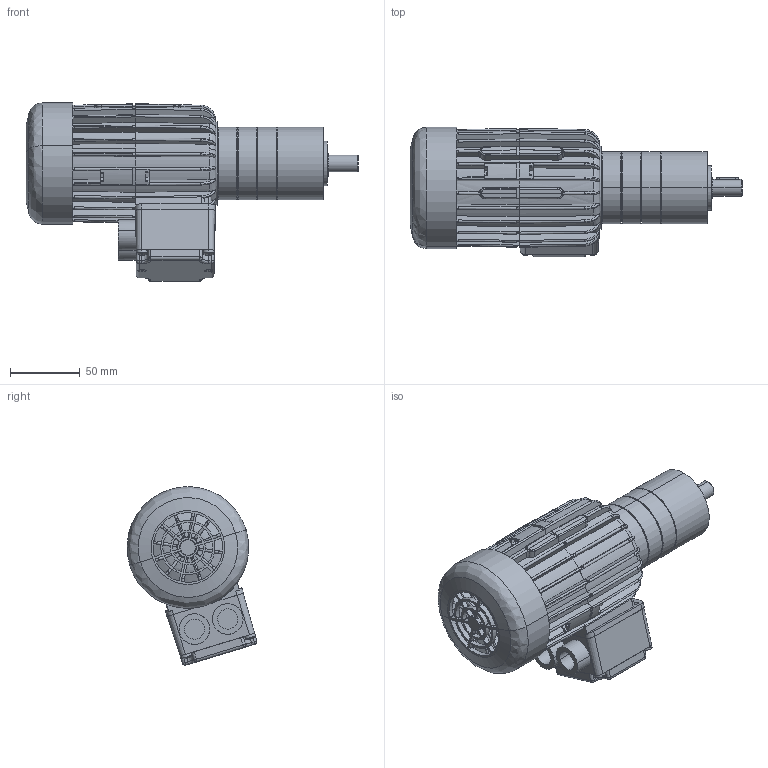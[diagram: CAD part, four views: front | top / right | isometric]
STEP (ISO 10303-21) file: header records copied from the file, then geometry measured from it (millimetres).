
FILE_DESCRIPTION (( 'STEP AP214' ), '1' );
FILE_NAME ('DG7150_+_PM52 3etages.STEP', '2014-12-08T15:08:21', ( '' ), ( '' ), 'SwSTEP 2.0', 'SolidWorks 2013', '' );
FILE_SCHEMA (( 'AUTOMOTIVE_DESIGN' ));
Length unit declared in the file: millimetre
Products named in the file (17): GK2152_POS3_6_ANLAUFSCHEIBE_1ST; SCHRAUBE_1241978_1; 8006230_ZAHNKRANZ_Z46; 8006405_DICHTRING; 4X4X16_D6885A; D471_12X1_5; 8102168_ABTRIEB_LK1_KPL; GK2152_POS31_2_LAGERBOLZEN; 8101171_ABTRIEB_ROHTEIL_AF0; DIN998_PS_12X18X1; D625-6001-2RS; 8006231_LAGERFLANSCH; DG7150_+_PM52 3etages; Dg7150-2; adapt d662 dg7150_Part; PM52 pour 1.13.063 - 1227633; 8014926_MOTORRITZEL_Z17
Assembly tree (28 placements, depth 4):
  DG7150_+_PM52 3etages
    PM52 pour 1.13.063 - 1227633
      8006231_LAGERFLANSCH
      D625-6001-2RS  x2
      DIN998_PS_12X18X1  x2
      8102168_ABTRIEB_LK1_KPL
        8101171_ABTRIEB_ROHTEIL_AF0
        GK2152_POS31_2_LAGERBOLZEN  x3
      D471_12X1_5
      4X4X16_D6885A
      8006405_DICHTRING  x2
      8006230_ZAHNKRANZ_Z46
      SCHRAUBE_1241978_1  x4
      GK2152_POS3_6_ANLAUFSCHEIBE_1ST
      8014926_MOTORRITZEL_Z17
    adapt d662 dg7150_Part
    Dg7150-2
    8006405_DICHTRING  x2
    8006230_ZAHNKRANZ_Z46  x2
Bounding box: 238.7 x 93.25 x 128.34 mm (x, y, z)
Volume: 57321.4 mm3; surface area: 177775.7 mm2
Topology: 23 solids, 55 shells, 2442 faces, 7200 edges, 4838 vertices
Faces by surface type: cylinder 951, plane 779, cone 445, bspline 267
Entity records: 81695 total; most frequent: CARTESIAN_POINT 27362, ORIENTED_EDGE 8895, DIRECTION 8360, EDGE_CURVE 5013, VERTEX_POINT 3394, AXIS2_PLACEMENT_3D 3165, LINE 2030, VECTOR 2030
